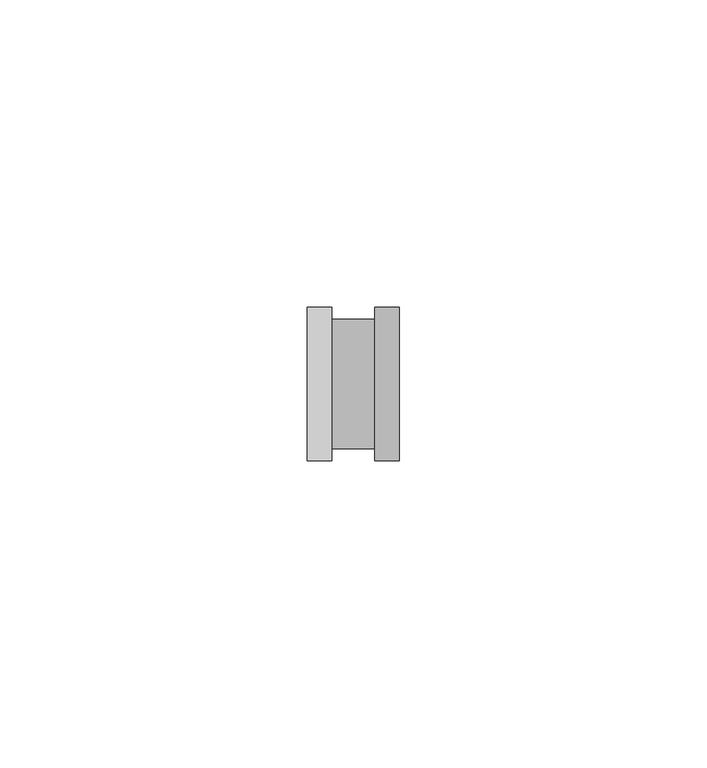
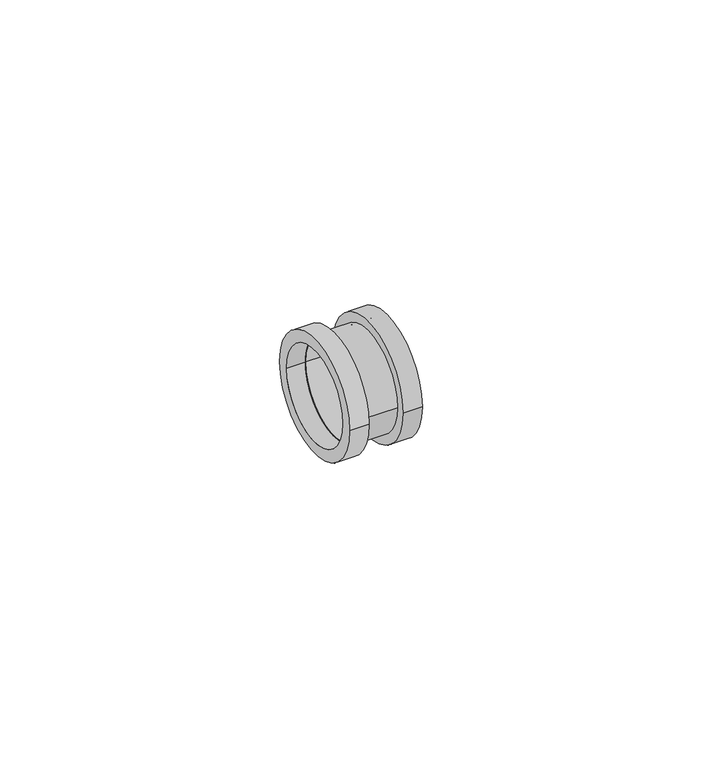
"""IFC4 building model written with IfcOpenShell, lengths in millimetres: pipe fitting geometry, БИР ПЕКС_НПР_Соединитель_Резьба_Внутренняя : Соединитель прямой с внутренней резьбой."""

from ifc_helpers import new_model, si_unit, point, frame, origin, origin_2d, place, context, project, spatial, circle_curve, trimmed, segment, composite_curve, outline, extrude, source, transform, mapped, element, save


def pipe_fitting_c51fb348(model_context):
    return source(origin(), model_context, "Body", "SweptSolid", [
        extrude(outline(composite_curve([segment(trimmed(circle_curve(origin_2d(), 10.5), [point((-10.5, 0.0))], [point((10.5, 0.0))], False, "CARTESIAN"), True, "CONTINUOUS"), segment(trimmed(circle_curve(origin_2d(), 10.5), [point((10.5, 0.0))], [point((-10.5, 0.0))], False, "CARTESIAN"), True, "CONTINUOUS")], self_intersect=False), holes=[composite_curve([segment(trimmed(circle_curve(origin_2d(), 10.0), [point((-10.0, 0.0))], [point((10.0, 0.0))], True, "CARTESIAN"), True, "CONTINUOUS"), segment(trimmed(circle_curve(origin_2d(), 10.0), [point((10.0, 0.0))], [point((-10.0, 0.0))], True, "CARTESIAN"), True, "CONTINUOUS")], self_intersect=False)]), frame((-3.5, 0.0, 0.0), z_axis=(1.0, 0.0, 0.0), x_axis=(0.0, 1.0, 0.0)), (0.0, 0.0, 1.0), 7.0),
        extrude(outline(composite_curve([segment(trimmed(circle_curve(origin_2d(), 12.5), [point((-12.5, 0.0))], [point((12.5, 0.0))], False, "CARTESIAN"), True, "CONTINUOUS"), segment(trimmed(circle_curve(origin_2d(), 12.5), [point((12.5, 0.0))], [point((-12.5, 0.0))], False, "CARTESIAN"), True, "CONTINUOUS")], self_intersect=False), holes=[composite_curve([segment(trimmed(circle_curve(origin_2d(), 10.0), [point((-10.0, 0.0))], [point((10.0, 0.0))], True, "CARTESIAN"), True, "CONTINUOUS"), segment(trimmed(circle_curve(origin_2d(), 10.0), [point((10.0, 0.0))], [point((-10.0, 0.0))], True, "CARTESIAN"), True, "CONTINUOUS")], self_intersect=False)]), frame((3.5, 0.0, 0.0), z_axis=(1.0, 0.0, 0.0), x_axis=(0.0, 1.0, 0.0)), (0.0, 0.0, 1.0), 4.0),
        extrude(outline(composite_curve([segment(trimmed(circle_curve(origin_2d(), 12.5), [point((-12.5, 0.0))], [point((12.5, 0.0))], False, "CARTESIAN"), True, "CONTINUOUS"), segment(trimmed(circle_curve(origin_2d(), 12.5), [point((12.5, 0.0))], [point((-12.5, 0.0))], False, "CARTESIAN"), True, "CONTINUOUS")], self_intersect=False), holes=[composite_curve([segment(trimmed(circle_curve(origin_2d(), 10.0), [point((-10.0, 0.0))], [point((10.0, 0.0))], True, "CARTESIAN"), True, "CONTINUOUS"), segment(trimmed(circle_curve(origin_2d(), 10.0), [point((10.0, 0.0))], [point((-10.0, 0.0))], True, "CARTESIAN"), True, "CONTINUOUS")], self_intersect=False)]), frame((-7.5, 0.0, 0.0), z_axis=(1.0, 0.0, 0.0), x_axis=(0.0, 1.0, 0.0)), (0.0, 0.0, 1.0), 4.0),
    ])


if __name__ == "__main__":
    model = new_model("IFC4")
    model_context = context("Model", 3, world=origin())
    ifc_project = project(units=[si_unit("LENGTHUNIT", "METRE", prefix="MILLI")], contexts=[model_context])
    site = spatial("IfcSite", under=ifc_project)
    building = spatial("IfcBuilding", under=site)
    placement = place(None, origin())
    pipe_fitting_shape = pipe_fitting_c51fb348(model_context)
    element("IfcPipeFitting", 1, ObjectType="БИР ПЕКС_НПР_Соединитель_Резьба_Внутренняя : Соединитель прямой с внутренней резьбой", at=placement, inside=building, context=model_context, shape_type="MappedRepresentation", body=[
        mapped(pipe_fitting_shape, transform((0.0, 0.0, 0.0), x_axis=(1.0, 0.0, 0.0), y_axis=(0.0, 1.0, 0.0), z_axis=(0.0, 0.0, 1.0))),
    ])
    save(model, "model.ifc")
